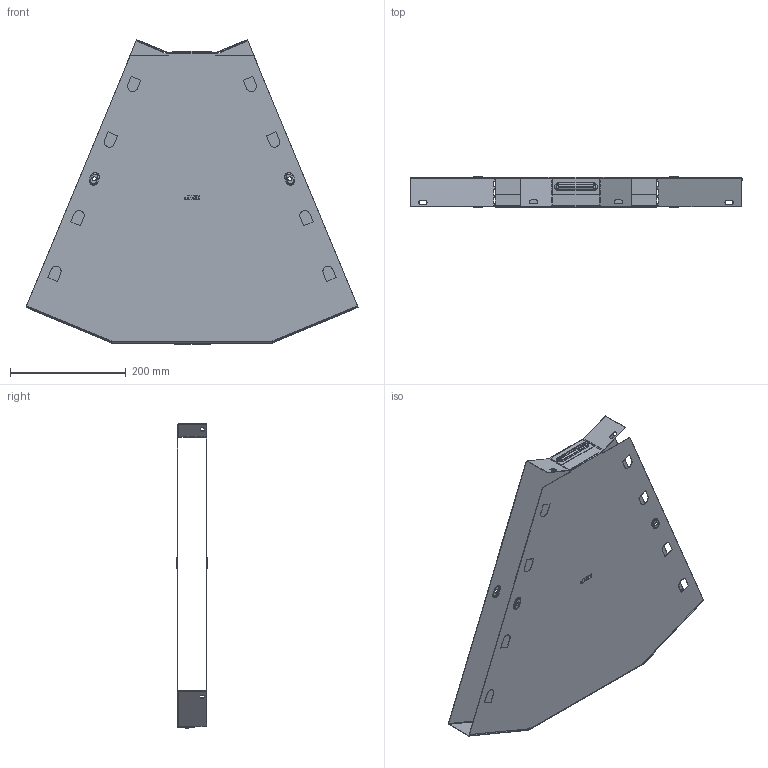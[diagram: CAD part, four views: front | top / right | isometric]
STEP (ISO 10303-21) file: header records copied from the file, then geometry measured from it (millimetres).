
FILE_DESCRIPTION (( 'STEP AP214' ), '1' );
FILE_NAME ('g4550500_捘.STEP', '2019-06-10T08:35:01', ( '砐錪賧瘔蠈錪 Windows' ), ( '' ), 'SwSTEP 2.0', 'SolidWorks 2018', '' );
FILE_SCHEMA (( 'AUTOMOTIVE_DESIGN' ));
Length unit declared in the file: millimetre
Products named in the file (1): g4550500_捘
Bounding box: 573.02 x 53.8 x 525.57 mm (x, y, z)
Volume: 352177.7 mm3; surface area: 885171.6 mm2
Topology: 2 solids, 2 shells, 528 faces, 1436 edges, 916 vertices
Faces by surface type: plane 298, cylinder 148, torus 64, bspline 18
Entity records: 17568 total; most frequent: CARTESIAN_POINT 3900, ORIENTED_EDGE 2872, DIRECTION 2814, EDGE_CURVE 1436, VECTOR 1008, LINE 1008, VERTEX_POINT 916, AXIS2_PLACEMENT_3D 903
